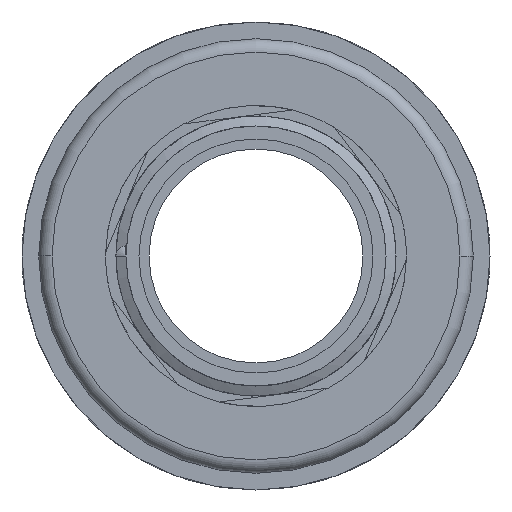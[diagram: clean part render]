
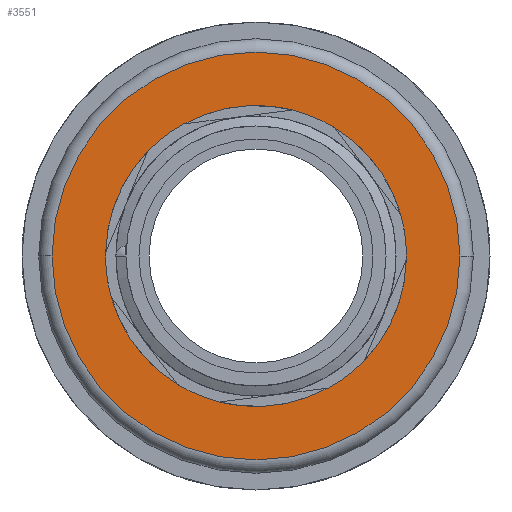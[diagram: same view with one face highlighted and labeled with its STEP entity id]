
A CAD part, left-side view. The second image highlights one B-rep face of the part: STEP entity #3551.
In plain terms, the highlighted planar face has unit normal (-1, 0, 0).
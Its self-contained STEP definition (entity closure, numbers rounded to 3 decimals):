
#56 = ORIENTED_EDGE ( 'NONE', *, *, #105, .T. ) ;
#61 = CARTESIAN_POINT ( 'NONE',  ( 16.929, 22.5, 0. ) ) ;
#105 = EDGE_CURVE ( 'NONE', #197, #2536, #1509, .T. ) ;
#141 = EDGE_CURVE ( 'NONE', #4021, #3479, #3486, .T. ) ;
#197 = VERTEX_POINT ( 'NONE', #253 ) ;
#226 = DIRECTION ( 'NONE',  ( 0., -1., 0. ) ) ;
#253 = CARTESIAN_POINT ( 'NONE',  ( 16.929, -30.5, 0. ) ) ;
#611 = DIRECTION ( 'NONE',  ( 1., 0., 0. ) ) ;
#805 = DIRECTION ( 'NONE',  ( 0., -1., 0. ) ) ;
#914 = CARTESIAN_POINT ( 'NONE',  ( 16.929, 30.5, 0. ) ) ;
#1509 = CIRCLE ( 'NONE', #4003, 30.5 ) ;
#1748 = CARTESIAN_POINT ( 'NONE',  ( 16.929, 22.5, 0. ) ) ;
#1889 = DIRECTION ( 'NONE',  ( -1., 0., 0. ) ) ;
#1975 = ORIENTED_EDGE ( 'NONE', *, *, #5295, .T. ) ;
#2007 = ORIENTED_EDGE ( 'NONE', *, *, #141, .F. ) ;
#2054 = EDGE_CURVE ( 'NONE', #3479, #4021, #4975, .T. ) ;
#2080 = FACE_OUTER_BOUND ( 'NONE', #2498, .T. ) ;
#2173 = AXIS2_PLACEMENT_3D ( 'NONE', #61, #611, #6032 ) ;
#2498 = EDGE_LOOP ( 'NONE', ( #56, #1975 ) ) ;
#2536 = VERTEX_POINT ( 'NONE', #914 ) ;
#2603 = EDGE_LOOP ( 'NONE', ( #5580, #2007 ) ) ;
#3479 = VERTEX_POINT ( 'NONE', #3483 ) ;
#3483 = CARTESIAN_POINT ( 'NONE',  ( 16.929, -22.5, 0. ) ) ;
#3486 = CIRCLE ( 'NONE', #4825, 22.5 ) ;
#3551 = ADVANCED_FACE ( 'NONE', ( #5570, #2080 ), #5630, .F. ) ;
#3813 = AXIS2_PLACEMENT_3D ( 'NONE', #4464, #6011, #4994 ) ;
#3840 = AXIS2_PLACEMENT_3D ( 'NONE', #6368, #1889, #3878 ) ;
#3878 = DIRECTION ( 'NONE',  ( 0., -1., 0. ) ) ;
#4003 = AXIS2_PLACEMENT_3D ( 'NONE', #4249, #6258, #226 ) ;
#4021 = VERTEX_POINT ( 'NONE', #1748 ) ;
#4127 = CARTESIAN_POINT ( 'NONE',  ( 16.929, 0., 0. ) ) ;
#4158 = DIRECTION ( 'NONE',  ( -1., 0., 0. ) ) ;
#4249 = CARTESIAN_POINT ( 'NONE',  ( 16.929, 0., 0. ) ) ;
#4464 = CARTESIAN_POINT ( 'NONE',  ( 16.929, 0., 0. ) ) ;
#4495 = CIRCLE ( 'NONE', #3840, 30.5 ) ;
#4825 = AXIS2_PLACEMENT_3D ( 'NONE', #4127, #4158, #805 ) ;
#4975 = CIRCLE ( 'NONE', #3813, 22.5 ) ;
#4994 = DIRECTION ( 'NONE',  ( 0., -1., 0. ) ) ;
#5295 = EDGE_CURVE ( 'NONE', #2536, #197, #4495, .T. ) ;
#5570 = FACE_BOUND ( 'NONE', #2603, .T. ) ;
#5580 = ORIENTED_EDGE ( 'NONE', *, *, #2054, .F. ) ;
#5630 = PLANE ( 'NONE',  #2173 ) ;
#6011 = DIRECTION ( 'NONE',  ( -1., 0., 0. ) ) ;
#6032 = DIRECTION ( 'NONE',  ( 0., 1., 0. ) ) ;
#6258 = DIRECTION ( 'NONE',  ( -1., 0., 0. ) ) ;
#6368 = CARTESIAN_POINT ( 'NONE',  ( 16.929, 0., 0. ) ) ;
